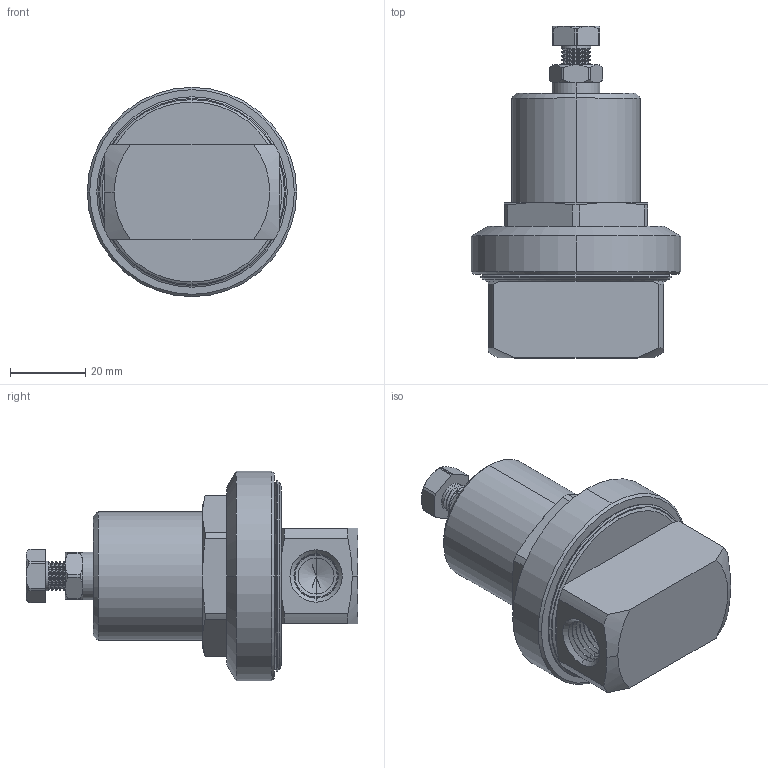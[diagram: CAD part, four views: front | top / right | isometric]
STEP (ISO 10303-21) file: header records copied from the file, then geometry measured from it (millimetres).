
FILE_DESCRIPTION (( 'STEP AP203' ), '1' );
FILE_NAME ('BPR-250I.STEP', '2020-05-18T18:24:28', ( '' ), ( '' ), 'SwSTEP 2.0', 'SolidWorks 2011', '' );
FILE_SCHEMA (( 'CONFIG_CONTROL_DESIGN' ));
Length unit declared in the file: inch
Products named in the file (2): BPR-250I; Part2^BPR-250I-A-50_CM
Assembly tree (1 placements, depth 2):
  BPR-250I
    Part2^BPR-250I-A-50_CM
Bounding box: 55.55 x 88.06 x 55.55 mm (x, y, z)
Volume: 89893.9 mm3; surface area: 16295.2 mm2
Topology: 1 solids, 1 shells, 283 faces, 670 edges, 394 vertices
Faces by surface type: cone 170, cylinder 72, plane 41
Entity records: 8368 total; most frequent: CARTESIAN_POINT 1574, DIRECTION 1504, ORIENTED_EDGE 1332, EDGE_CURVE 666, AXIS2_PLACEMENT_3D 614, VERTEX_POINT 394, CIRCLE 327, EDGE_LOOP 292
